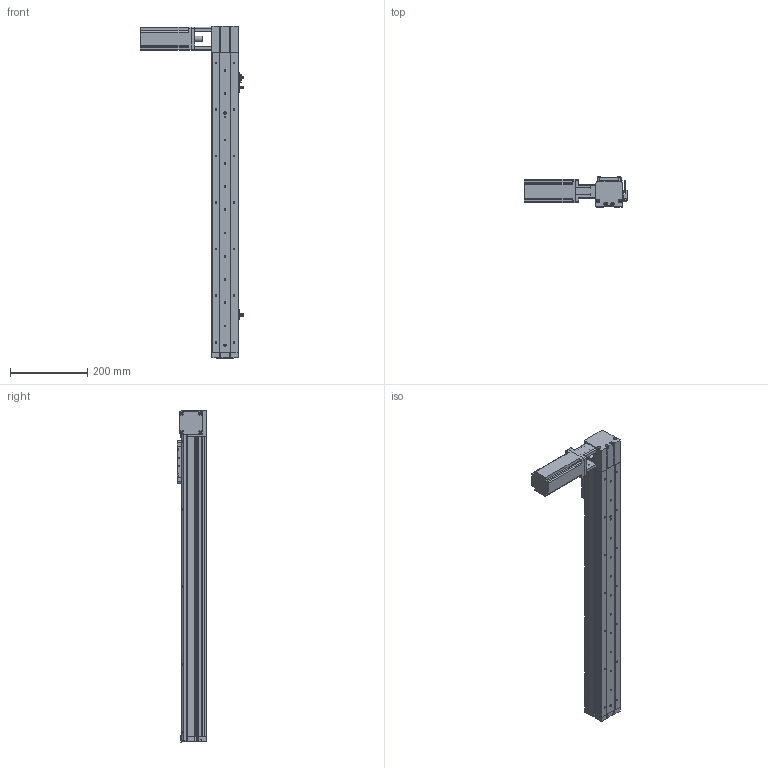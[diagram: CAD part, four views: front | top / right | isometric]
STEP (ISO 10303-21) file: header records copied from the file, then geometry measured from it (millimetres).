
FILE_DESCRIPTION (( 'STEP AP214' ), '1' );
FILE_NAME ('KSD68BS-S600-MLT-CR.STEP', '2019-08-28T03:23:33', ( '微软用户' ), ( '微软中国' ), 'SwSTEP 2.0', 'SolidWorks 2014', '' );
FILE_SCHEMA (( 'AUTOMOTIVE_DESIGN' ));
Length unit declared in the file: millimetre
Products named in the file (13): 100遵鎮湛假蚾啣1; KSD68BS 600行程盖板全封闭; 68遵裔啣揤啣1; 68宽单导轨全封闭丝杆传动安装板1防护罩; KSD68BS 600行程侧板全封闭; 68宽单导轨全封闭同步带端板; 68单导轨全封闭同步带电机座右; 68单导轨全封闭同步带安装板; 感应片68宽全封闭; U倰嫖萇EEㄜSX672; 台达ECMA－C20604AS伺服电机（400W); KSD68BS 600行程底板全封闭; KSD68BS-S600-MLT-CR
Assembly tree (16 placements, depth 2):
  KSD68BS-S600-MLT-CR
    KSD68BS 600行程底板全封闭
    台达ECMA－C20604AS伺服电机（400W)
    U倰嫖萇EEㄜSX672  x3
    感应片68宽全封闭
    68单导轨全封闭同步带安装板
    68单导轨全封闭同步带电机座右
    68宽单导轨全封闭同步带端板
    KSD68BS 600行程侧板全封闭  x2
    68宽单导轨全封闭丝杆传动安装板1防护罩
    68遵裔啣揤啣1  x2
    KSD68BS 600行程盖板全封闭
    100遵鎮湛假蚾啣1
Bounding box: 266.4 x 77 x 858.1 mm (x, y, z)
Volume: 1946958.2 mm3; surface area: 679615.5 mm2
Topology: 17 solids, 17 shells, 1382 faces, 3910 edges, 2503 vertices
Faces by surface type: cylinder 634, plane 600, cone 148
Entity records: 43145 total; most frequent: CARTESIAN_POINT 7269, DIRECTION 6440, ORIENTED_EDGE 6164, EDGE_CURVE 3082, AXIS2_PLACEMENT_3D 2308, VERTEX_POINT 2021, VECTOR 1824, LINE 1824
